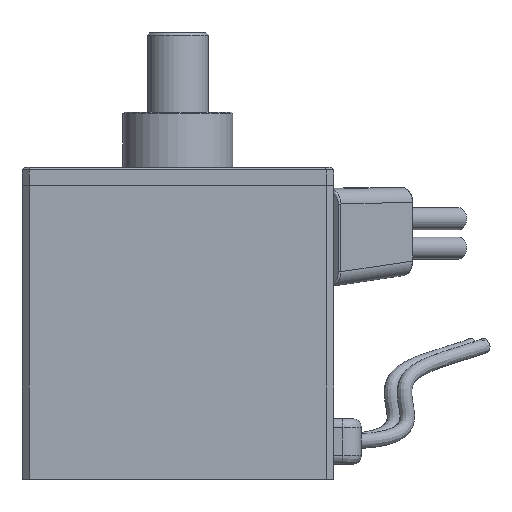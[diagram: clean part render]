
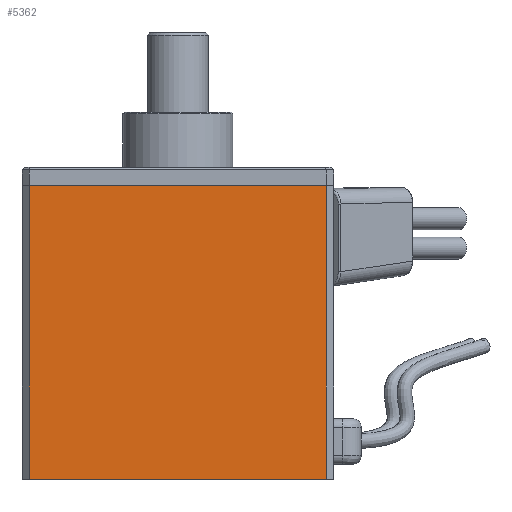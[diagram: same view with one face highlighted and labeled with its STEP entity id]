
A CAD part, left-side view. The second image highlights one B-rep face of the part: STEP entity #5362.
In plain terms, the highlighted planar face has unit normal (-1, 0, 0).
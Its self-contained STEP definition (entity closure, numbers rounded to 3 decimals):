
#302=PLANE('',#5833);
#551=FACE_OUTER_BOUND('',#888,.T.);
#888=EDGE_LOOP('',(#4529,#4530,#4531,#4532));
#1548=LINE('',#11740,#2002);
#1623=LINE('',#11908,#2077);
#1624=LINE('',#11910,#2078);
#1625=LINE('',#11911,#2079);
#2002=VECTOR('',#6801,24.3);
#2077=VECTOR('',#6962,15.);
#2078=VECTOR('',#6963,24.3);
#2079=VECTOR('',#6964,15.);
#2495=VERTEX_POINT('',#11737);
#2496=VERTEX_POINT('',#11739);
#2546=VERTEX_POINT('',#11907);
#2547=VERTEX_POINT('',#11909);
#3143=EDGE_CURVE('',#2495,#2496,#1548,.T.);
#3228=EDGE_CURVE('',#2546,#2495,#1623,.T.);
#3229=EDGE_CURVE('',#2547,#2546,#1624,.T.);
#3230=EDGE_CURVE('',#2547,#2496,#1625,.T.);
#4529=ORIENTED_EDGE('',*,*,#3228,.F.);
#4530=ORIENTED_EDGE('',*,*,#3229,.F.);
#4531=ORIENTED_EDGE('',*,*,#3230,.T.);
#4532=ORIENTED_EDGE('',*,*,#3143,.F.);
#5362=ADVANCED_FACE('',(#551),#302,.T.);
#5833=AXIS2_PLACEMENT_3D('',#11906,#6960,#6961);
#6801=DIRECTION('',(0.,-1.,0.));
#6960=DIRECTION('center_axis',(-1.,0.,0.));
#6961=DIRECTION('ref_axis',(0.,0.,
-1.));
#6962=DIRECTION('',(0.,0.,1.));
#6963=DIRECTION('',(0.,1.,0.));
#6964=DIRECTION('',(0.,0.,1.));
#11737=CARTESIAN_POINT('',(-1.814,22.218,12.6));
#11739=CARTESIAN_POINT('',(-1.814,-2.082,12.6));
#11740=CARTESIAN_POINT('',(-1.814,-2.082,12.6));
#11906=CARTESIAN_POINT('Origin',(-1.814,22.818,-11.4));
#11907=CARTESIAN_POINT('',(-1.814,22.218,-11.4));
#11908=CARTESIAN_POINT('',(-1.814,22.218,11.1));
#11909=CARTESIAN_POINT('',(-1.814,-2.082,-11.4));
#11910=CARTESIAN_POINT('',(-1.814,-2.082,-11.4));
#11911=CARTESIAN_POINT('',(-1.814,-2.082,11.1));
